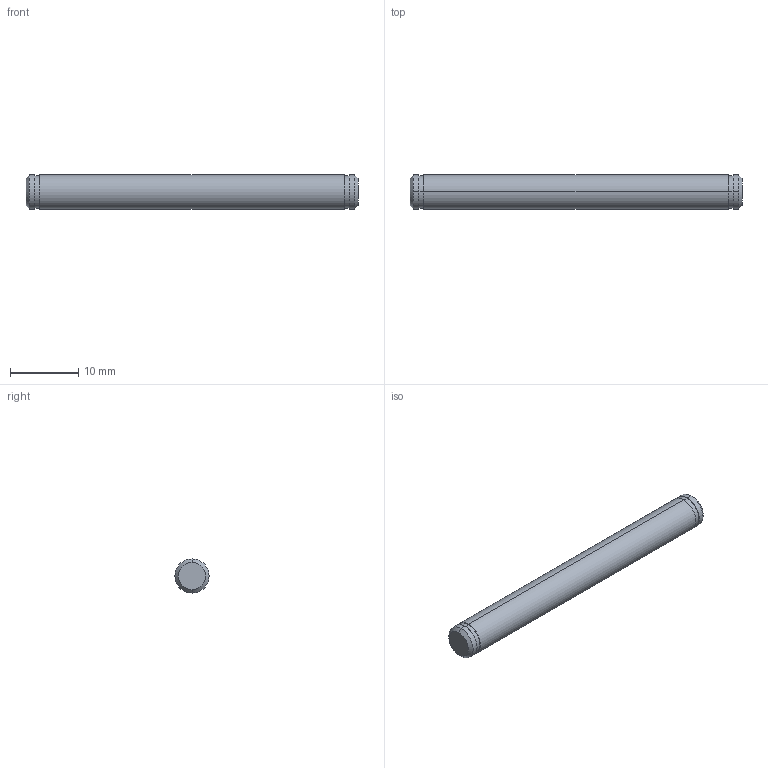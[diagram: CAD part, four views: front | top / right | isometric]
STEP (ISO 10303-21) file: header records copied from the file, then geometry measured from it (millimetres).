
FILE_DESCRIPTION (( 'STEP AP214' ), '1' );
FILE_NAME ('GZ21.26_V1絳砃謫植雄蛌粣.STEP', '2021-02-28T07:51:50', ( 'hp' ), ( '' ), 'SwSTEP 2.0', 'SolidWorks 2017', '' );
FILE_SCHEMA (( 'AUTOMOTIVE_DESIGN' ));
Length unit declared in the file: millimetre
Products named in the file (1): GZ21.26_V1絳砃謫植雄蛌粣
Bounding box: 48.5 x 5 x 5 mm (x, y, z)
Volume: 946.5 mm3; surface area: 796.5 mm2
Topology: 1 solids, 1 shells, 20 faces, 38 edges, 24 vertices
Faces by surface type: cylinder 10, plane 6, cone 4
Entity records: 548 total; most frequent: DIRECTION 104, CARTESIAN_POINT 83, ORIENTED_EDGE 76, AXIS2_PLACEMENT_3D 45, EDGE_CURVE 38, EDGE_LOOP 24, CIRCLE 24, VERTEX_POINT 24
